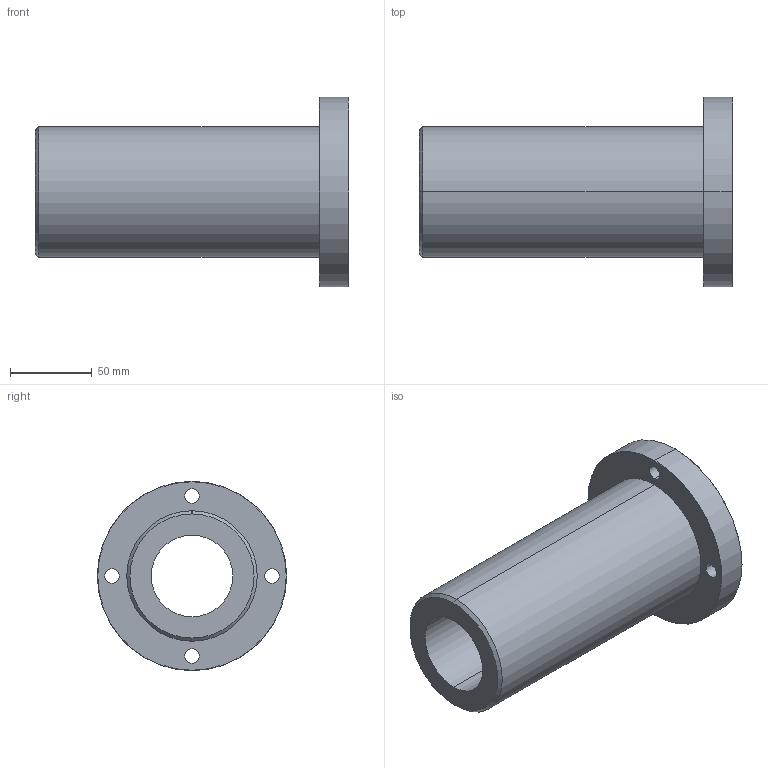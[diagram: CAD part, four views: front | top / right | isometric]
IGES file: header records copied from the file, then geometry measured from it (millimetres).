
Start section: 3D InterOp IGES (Version 21 0 1), Spatial Corp. Copyright (c) 1999-2007.
Global section: file name: DFPJR50.igs; native system: Spatial Corp.; preprocessor: 3D InterOp GENERIC/IGES 3.0; author: Noname; organization: Noname; date: 20220324.143403; units: millimetre
Bounding box: 192 x 116 x 116 mm (x, y, z)
Surface area: 99287 mm2 (no closed solid volume)
Topology: 0 solids, 0 shells, 35 faces, 156 edges, 156 vertices
Faces by surface type: revolution 28, extrusion 7
